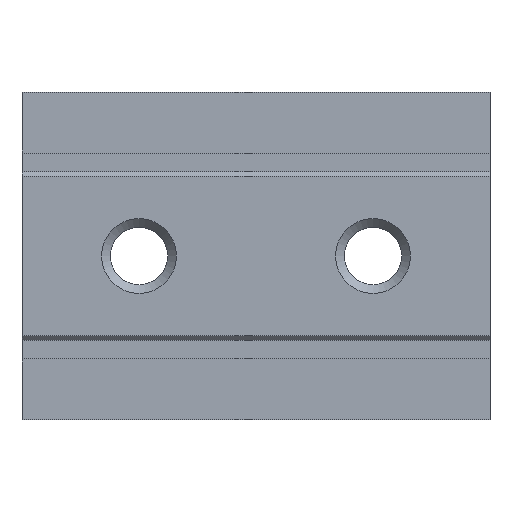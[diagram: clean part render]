
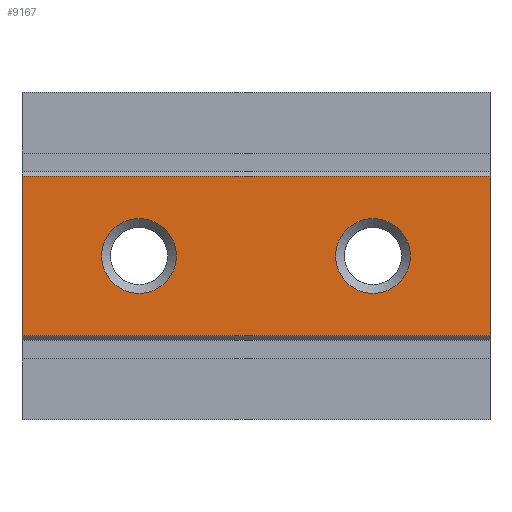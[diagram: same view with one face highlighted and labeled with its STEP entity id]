
A CAD part, front view. The second image highlights one B-rep face of the part: STEP entity #9167.
In plain terms, the highlighted planar face has unit normal (0, -1, 0).
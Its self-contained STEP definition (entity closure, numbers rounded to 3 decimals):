
#38=CIRCLE('',#9709,0.8);
#39=CIRCLE('',#9710,0.8);
#966=ORIENTED_EDGE('',*,*,#3821,.F.);
#967=ORIENTED_EDGE('',*,*,#3822,.F.);
#968=ORIENTED_EDGE('',*,*,#3823,.T.);
#969=ORIENTED_EDGE('',*,*,#3824,.F.);
#970=ORIENTED_EDGE('',*,*,#3825,.F.);
#971=ORIENTED_EDGE('',*,*,#3819,.T.);
#3819=EDGE_CURVE('',#5245,#5244,#6205,.T.);
#3821=EDGE_CURVE('',#5246,#5246,#38,.T.);
#3822=EDGE_CURVE('',#5247,#5247,#39,.T.);
#3823=EDGE_CURVE('',#5244,#5248,#6207,.T.);
#3824=EDGE_CURVE('',#5249,#5248,#6208,.T.);
#3825=EDGE_CURVE('',#5245,#5249,#6209,.T.);
#5244=VERTEX_POINT('',#13925);
#5245=VERTEX_POINT('',#13927);
#5246=VERTEX_POINT('',#13931);
#5247=VERTEX_POINT('',#13933);
#5248=VERTEX_POINT('',#13935);
#5249=VERTEX_POINT('',#13937);
#6205=LINE('',#13926,#7029);
#6207=LINE('',#13934,#7031);
#6208=LINE('',#13936,#7032);
#6209=LINE('',#13938,#7033);
#7029=VECTOR('',#10854,1000.);
#7031=VECTOR('',#10862,1000.);
#7032=VECTOR('',#10863,1000.);
#7033=VECTOR('',#10864,1000.);
#7844=EDGE_LOOP('',(#966));
#7845=EDGE_LOOP('',(#967));
#7846=EDGE_LOOP('',(#968,#969,#970,#971));
#8402=FACE_BOUND('',#7844,.T.);
#8403=FACE_BOUND('',#7845,.T.);
#8404=FACE_BOUND('',#7846,.T.);
#8959=PLANE('',#9708);
#9167=ADVANCED_FACE('',(#8402,#8403,#8404),#8959,.F.);
#9708=AXIS2_PLACEMENT_3D('',#13929,#10856,#10857);
#9709=AXIS2_PLACEMENT_3D('',#13930,#10858,#10859);
#9710=AXIS2_PLACEMENT_3D('',#13932,#10860,#10861);
#10854=DIRECTION('',(-1.,0.,0.));
#10856=DIRECTION('',(0.,1.,0.));
#10857=DIRECTION('',(0.,0.,1.));
#10858=DIRECTION('',(0.,-1.,0.));
#10859=DIRECTION('',(0.,0.,-1.));
#10860=DIRECTION('',(0.,-1.,0.));
#10861=DIRECTION('',(0.,0.,-1.));
#10862=DIRECTION('',(0.,0.,-1.));
#10863=DIRECTION('',(-1.,0.,0.));
#10864=DIRECTION('',(0.,0.,-1.));
#13925=CARTESIAN_POINT('',(-5.,0.,1.7));
#13926=CARTESIAN_POINT('',(5.,0.,1.7));
#13927=CARTESIAN_POINT('',(5.,0.,1.7));
#13929=CARTESIAN_POINT('',(5.,0.,1.7));
#13930=CARTESIAN_POINT('',(2.5,0.,0.));
#13931=CARTESIAN_POINT('',(2.5,0.,-0.8));
#13932=CARTESIAN_POINT('',(-2.5,0.,0.));
#13933=CARTESIAN_POINT('',(-2.5,0.,-0.8));
#13934=CARTESIAN_POINT('',(-5.,0.,1.7));
#13935=CARTESIAN_POINT('',(-5.,0.,-1.7));
#13936=CARTESIAN_POINT('',(5.,0.,-1.7));
#13937=CARTESIAN_POINT('',(5.,0.,-1.7));
#13938=CARTESIAN_POINT('',(5.,0.,1.7));
